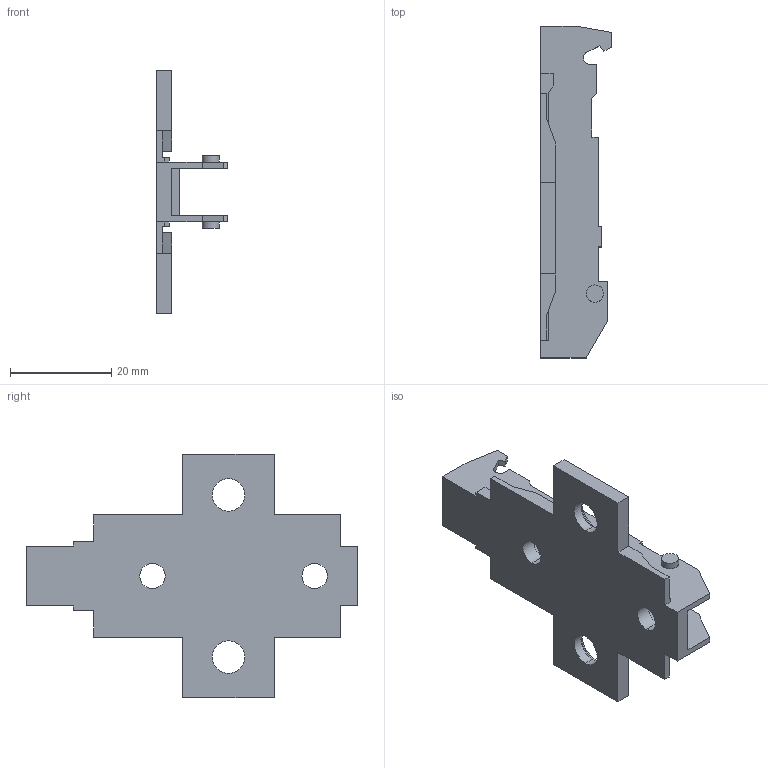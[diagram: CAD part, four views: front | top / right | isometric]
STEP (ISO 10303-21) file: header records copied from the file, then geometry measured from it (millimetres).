
FILE_DESCRIPTION (( 'STEP AP214' ), '1' );
FILE_NAME ('1D_Kreuzmontageplatte 37_32_Euro_3,5.step', '2018-10-02T12:38:43', ( '' ), ( '' ), 'SwSTEP 2.0', 'SolidWorks 2017', '' );
FILE_SCHEMA (( 'AUTOMOTIVE_DESIGN' ));
Length unit declared in the file: millimetre
Products named in the file (1): 1D_Kreuzmontageplatte 37_32_Euro_3,5
Bounding box: 14 x 65.5 x 48 mm (x, y, z)
Volume: 6106.5 mm3; surface area: 6793 mm2
Topology: 1 solids, 1 shells, 110 faces, 310 edges, 204 vertices
Faces by surface type: plane 84, cylinder 22, cone 4
Entity records: 3564 total; most frequent: CARTESIAN_POINT 625, ORIENTED_EDGE 620, DIRECTION 576, EDGE_CURVE 310, LINE 266, VECTOR 266, VERTEX_POINT 204, AXIS2_PLACEMENT_3D 155
